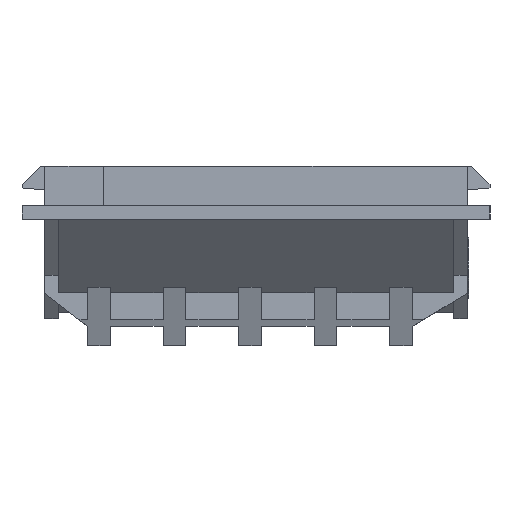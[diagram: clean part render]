
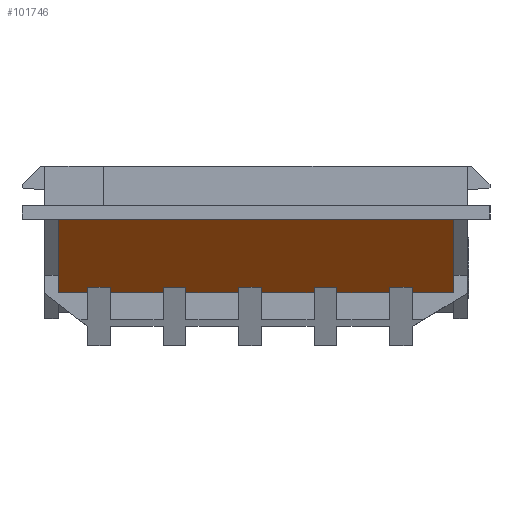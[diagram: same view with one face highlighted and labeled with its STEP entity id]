
A CAD part, left-side view. The second image highlights one B-rep face of the part: STEP entity #101746.
In plain terms, the highlighted planar face has unit normal (-0.418, 0, -0.908).
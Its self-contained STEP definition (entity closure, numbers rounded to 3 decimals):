
#26166=CARTESIAN_POINT(' ',(-35.2,-13.1,2.101));
#26167=VERTEX_POINT(' ',#26166);
#26386=CARTESIAN_POINT(' ',(-20.05,-10.35,-4.867));
#26387=VERTEX_POINT(' ',#26386);
#26496=CARTESIAN_POINT(' ',(-20.05,-13.1,-4.867));
#26497=VERTEX_POINT(' ',#26496);
#26511=CARTESIAN_POINT(' ',(-20.05,-10.35,-4.867));
#26516=DIRECTION(' ',(0.,-1.,0.));
#26521=VECTOR(' ',#26516,1.);
#26526=LINE('',#26511,#26521);
#26531=EDGE_CURVE(' ',#26387,#26497,#26526,.T.);
#97356=CARTESIAN_POINT(' ',(-35.2,13.1,2.101));
#97357=VERTEX_POINT(' ',#97356);
#98256=CARTESIAN_POINT(' ',(-35.2,11.1,2.101));
#98257=VERTEX_POINT(' ',#98256);
#98451=CARTESIAN_POINT(' ',(-35.2,-13.1,2.101));
#98456=DIRECTION(' ',(0.,1.,0.));
#98461=VECTOR(' ',#98456,1.);
#98466=LINE('',#98451,#98461);
#98471=EDGE_CURVE(' ',#26167,#98257,#98466,.T.);
#98951=CARTESIAN_POINT(' ',(-35.2,-13.1,2.101));
#98956=DIRECTION(' ',(0.909,0.,-0.418));
#98961=VECTOR(' ',#98956,1.);
#98966=LINE('',#98951,#98961);
#98971=EDGE_CURVE(' ',#26167,#26497,#98966,.T.);
#99161=CARTESIAN_POINT(' ',(-20.828,-10.35,-4.509));
#99162=VERTEX_POINT(' ',#99161);
#99181=CARTESIAN_POINT(' ',(-20.828,-10.35,-4.509));
#99186=DIRECTION(' ',(0.909,0.,-0.418));
#99191=VECTOR(' ',#99186,1.);
#99196=LINE('',#99181,#99191);
#99201=EDGE_CURVE(' ',#99162,#26387,#99196,.T.);
#99411=CARTESIAN_POINT(' ',(-20.828,-10.35,-4.509));
#99416=DIRECTION(' ',(0.,1.,0.));
#99421=VECTOR(' ',#99416,1.);
#99426=LINE('',#99411,#99421);
#99431=CARTESIAN_POINT(' ',(-20.828,-8.85,-4.509));
#99432=VERTEX_POINT(' ',#99431);
#99436=EDGE_CURVE(' ',#99162,#99432,#99426,.T.);
#99536=CARTESIAN_POINT(' ',(-20.828,-5.35,-4.509));
#99537=VERTEX_POINT(' ',#99536);
#99551=CARTESIAN_POINT(' ',(-20.828,-5.35,-4.509));
#99556=DIRECTION(' ',(0.,1.,0.));
#99561=VECTOR(' ',#99556,1.);
#99566=LINE('',#99551,#99561);
#99571=CARTESIAN_POINT(' ',(-20.828,-3.85,-4.509));
#99572=VERTEX_POINT(' ',#99571);
#99576=EDGE_CURVE(' ',#99537,#99572,#99566,.T.);
#99676=CARTESIAN_POINT(' ',(-20.828,-0.35,-4.509));
#99677=VERTEX_POINT(' ',#99676);
#99691=CARTESIAN_POINT(' ',(-20.828,-0.35,-4.509));
#99696=DIRECTION(' ',(0.,1.,0.));
#99701=VECTOR(' ',#99696,1.);
#99706=LINE('',#99691,#99701);
#99711=CARTESIAN_POINT(' ',(-20.828,1.15,-4.509));
#99712=VERTEX_POINT(' ',#99711);
#99716=EDGE_CURVE(' ',#99677,#99712,#99706,.T.);
#99816=CARTESIAN_POINT(' ',(-20.828,4.65,-4.509));
#99817=VERTEX_POINT(' ',#99816);
#99831=CARTESIAN_POINT(' ',(-20.828,4.65,-4.509));
#99836=DIRECTION(' ',(0.,1.,0.));
#99841=VECTOR(' ',#99836,1.);
#99846=LINE('',#99831,#99841);
#99851=CARTESIAN_POINT(' ',(-20.828,6.15,-4.509));
#99852=VERTEX_POINT(' ',#99851);
#99856=EDGE_CURVE(' ',#99817,#99852,#99846,.T.);
#99956=CARTESIAN_POINT(' ',(-20.828,9.65,-4.509));
#99957=VERTEX_POINT(' ',#99956);
#99971=CARTESIAN_POINT(' ',(-20.828,9.65,-4.509));
#99976=DIRECTION(' ',(0.,1.,0.));
#99981=VECTOR(' ',#99976,1.);
#99986=LINE('',#99971,#99981);
#99991=CARTESIAN_POINT(' ',(-20.828,11.15,-4.509));
#99992=VERTEX_POINT(' ',#99991);
#99996=EDGE_CURVE(' ',#99957,#99992,#99986,.T.);
#101136=DIRECTION(' ',(-0.418,-0.,-0.909));
#101141=CARTESIAN_POINT(' ',(-35.2,-13.1,2.101));
#101146=DIRECTION(' ',(-0.,1.,0.));
#101151=AXIS2_PLACEMENT_3D(' ',#101141,#101136,#101146);
#101156=PLANE('',#101151);
#101161=ORIENTED_EDGE(' ',*,*,#99996,.F.);
#101166=CARTESIAN_POINT(' ',(-20.828,9.65,-4.509));
#101171=DIRECTION(' ',(0.909,0.,-0.418));
#101176=VECTOR(' ',#101171,1.);
#101181=LINE('',#101166,#101176);
#101186=CARTESIAN_POINT(' ',(-20.05,9.65,-4.867));
#101187=VERTEX_POINT(' ',#101186);
#101191=EDGE_CURVE(' ',#99957,#101187,#101181,.T.);
#101196=ORIENTED_EDGE(' ',*,*,#101191,.T.);
#101201=CARTESIAN_POINT(' ',(-20.05,9.65,-4.867));
#101206=DIRECTION(' ',(0.,-1.,0.));
#101211=VECTOR(' ',#101206,1.);
#101216=LINE('',#101201,#101211);
#101221=CARTESIAN_POINT(' ',(-20.05,6.15,-4.867));
#101222=VERTEX_POINT(' ',#101221);
#101226=EDGE_CURVE(' ',#101187,#101222,#101216,.T.);
#101231=ORIENTED_EDGE(' ',*,*,#101226,.T.);
#101236=CARTESIAN_POINT(' ',(-20.828,6.15,-4.509));
#101241=DIRECTION(' ',(0.909,0.,-0.418));
#101246=VECTOR(' ',#101241,1.);
#101251=LINE('',#101236,#101246);
#101256=EDGE_CURVE(' ',#99852,#101222,#101251,.T.);
#101261=ORIENTED_EDGE(' ',*,*,#101256,.F.);
#101266=ORIENTED_EDGE(' ',*,*,#99856,.F.);
#101271=CARTESIAN_POINT(' ',(-20.828,4.65,-4.509));
#101276=DIRECTION(' ',(0.909,0.,-0.418));
#101281=VECTOR(' ',#101276,1.);
#101286=LINE('',#101271,#101281);
#101291=CARTESIAN_POINT(' ',(-20.05,4.65,-4.867));
#101292=VERTEX_POINT(' ',#101291);
#101296=EDGE_CURVE(' ',#99817,#101292,#101286,.T.);
#101301=ORIENTED_EDGE(' ',*,*,#101296,.T.);
#101306=CARTESIAN_POINT(' ',(-20.05,4.65,-4.867));
#101311=DIRECTION(' ',(0.,-1.,0.));
#101316=VECTOR(' ',#101311,1.);
#101321=LINE('',#101306,#101316);
#101326=CARTESIAN_POINT(' ',(-20.05,1.15,-4.867));
#101327=VERTEX_POINT(' ',#101326);
#101331=EDGE_CURVE(' ',#101292,#101327,#101321,.T.);
#101336=ORIENTED_EDGE(' ',*,*,#101331,.T.);
#101341=CARTESIAN_POINT(' ',(-20.828,1.15,-4.509));
#101346=DIRECTION(' ',(0.909,0.,-0.418));
#101351=VECTOR(' ',#101346,1.);
#101356=LINE('',#101341,#101351);
#101361=EDGE_CURVE(' ',#99712,#101327,#101356,.T.);
#101366=ORIENTED_EDGE(' ',*,*,#101361,.F.);
#101371=ORIENTED_EDGE(' ',*,*,#99716,.F.);
#101376=CARTESIAN_POINT(' ',(-20.828,-0.35,-4.509));
#101381=DIRECTION(' ',(0.909,0.,-0.418));
#101386=VECTOR(' ',#101381,1.);
#101391=LINE('',#101376,#101386);
#101396=CARTESIAN_POINT(' ',(-20.05,-0.35,-4.867));
#101397=VERTEX_POINT(' ',#101396);
#101401=EDGE_CURVE(' ',#99677,#101397,#101391,.T.);
#101406=ORIENTED_EDGE(' ',*,*,#101401,.T.);
#101411=CARTESIAN_POINT(' ',(-20.05,-0.35,-4.867));
#101416=DIRECTION(' ',(0.,-1.,0.));
#101421=VECTOR(' ',#101416,1.);
#101426=LINE('',#101411,#101421);
#101431=CARTESIAN_POINT(' ',(-20.05,-3.85,-4.867));
#101432=VERTEX_POINT(' ',#101431);
#101436=EDGE_CURVE(' ',#101397,#101432,#101426,.T.);
#101441=ORIENTED_EDGE(' ',*,*,#101436,.T.);
#101446=CARTESIAN_POINT(' ',(-20.828,-3.85,-4.509));
#101451=DIRECTION(' ',(0.909,0.,-0.418));
#101456=VECTOR(' ',#101451,1.);
#101461=LINE('',#101446,#101456);
#101466=EDGE_CURVE(' ',#99572,#101432,#101461,.T.);
#101471=ORIENTED_EDGE(' ',*,*,#101466,.F.);
#101476=ORIENTED_EDGE(' ',*,*,#99576,.F.);
#101481=CARTESIAN_POINT(' ',(-20.828,-5.35,-4.509));
#101486=DIRECTION(' ',(0.909,0.,-0.418));
#101491=VECTOR(' ',#101486,1.);
#101496=LINE('',#101481,#101491);
#101501=CARTESIAN_POINT(' ',(-20.05,-5.35,-4.867));
#101502=VERTEX_POINT(' ',#101501);
#101506=EDGE_CURVE(' ',#99537,#101502,#101496,.T.);
#101511=ORIENTED_EDGE(' ',*,*,#101506,.T.);
#101516=CARTESIAN_POINT(' ',(-20.05,-5.35,-4.867));
#101521=DIRECTION(' ',(0.,-1.,0.));
#101526=VECTOR(' ',#101521,1.);
#101531=LINE('',#101516,#101526);
#101536=CARTESIAN_POINT(' ',(-20.05,-8.85,-4.867));
#101537=VERTEX_POINT(' ',#101536);
#101541=EDGE_CURVE(' ',#101502,#101537,#101531,.T.);
#101546=ORIENTED_EDGE(' ',*,*,#101541,.T.);
#101551=CARTESIAN_POINT(' ',(-20.828,-8.85,-4.509));
#101556=DIRECTION(' ',(0.909,0.,-0.418));
#101561=VECTOR(' ',#101556,1.);
#101566=LINE('',#101551,#101561);
#101571=EDGE_CURVE(' ',#99432,#101537,#101566,.T.);
#101576=ORIENTED_EDGE(' ',*,*,#101571,.F.);
#101581=ORIENTED_EDGE(' ',*,*,#99436,.F.);
#101586=ORIENTED_EDGE(' ',*,*,#99201,.T.);
#101591=ORIENTED_EDGE(' ',*,*,#26531,.T.);
#101596=ORIENTED_EDGE(' ',*,*,#98971,.F.);
#101601=ORIENTED_EDGE(' ',*,*,#98471,.T.);
#101606=CARTESIAN_POINT(' ',(-35.2,11.1,2.101));
#101611=DIRECTION(' ',(0.,1.,0.));
#101616=VECTOR(' ',#101611,1.);
#101621=LINE('',#101606,#101616);
#101626=EDGE_CURVE(' ',#98257,#97357,#101621,.T.);
#101631=ORIENTED_EDGE(' ',*,*,#101626,.T.);
#101636=CARTESIAN_POINT(' ',(-35.2,13.1,2.101));
#101641=DIRECTION(' ',(0.909,0.,-0.418));
#101646=VECTOR(' ',#101641,1.);
#101651=LINE('',#101636,#101646);
#101656=CARTESIAN_POINT(' ',(-20.05,13.1,-4.867));
#101657=VERTEX_POINT(' ',#101656);
#101661=EDGE_CURVE(' ',#97357,#101657,#101651,.T.);
#101666=ORIENTED_EDGE(' ',*,*,#101661,.T.);
#101671=CARTESIAN_POINT(' ',(-20.05,13.1,-4.867));
#101676=DIRECTION(' ',(0.,-1.,0.));
#101681=VECTOR(' ',#101676,1.);
#101686=LINE('',#101671,#101681);
#101691=CARTESIAN_POINT(' ',(-20.05,11.15,-4.867));
#101692=VERTEX_POINT(' ',#101691);
#101696=EDGE_CURVE(' ',#101657,#101692,#101686,.T.);
#101701=ORIENTED_EDGE(' ',*,*,#101696,.T.);
#101706=CARTESIAN_POINT(' ',(-20.828,11.15,-4.509));
#101711=DIRECTION(' ',(0.909,0.,-0.418));
#101716=VECTOR(' ',#101711,1.);
#101721=LINE('',#101706,#101716);
#101726=EDGE_CURVE(' ',#99992,#101692,#101721,.T.);
#101731=ORIENTED_EDGE(' ',*,*,#101726,.F.);
#101736=EDGE_LOOP(' ',(#101161,#101196,#101231,#101261,#101266,#101301,#101336,#101366,#101371,#101406,#101441,#101471,#101476,#101511,#101546,#101576,#101581,#101586,#101591,#101596,#101601,#101631,#101666,#101701,#101731));
#101741=FACE_OUTER_BOUND(' ',#101736,.T.);
#101746=ADVANCED_FACE('',(#101741),#101156,.T.);
